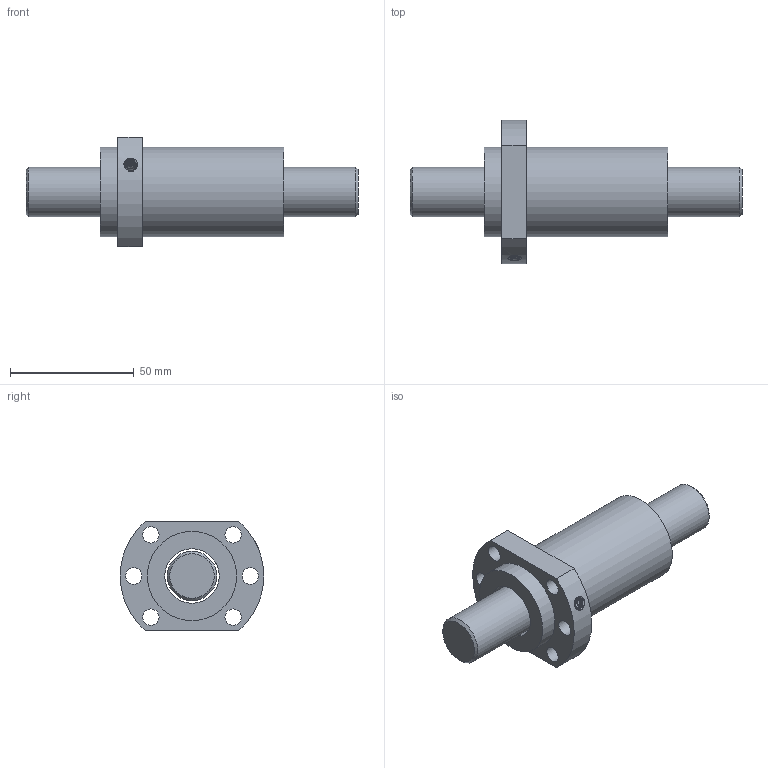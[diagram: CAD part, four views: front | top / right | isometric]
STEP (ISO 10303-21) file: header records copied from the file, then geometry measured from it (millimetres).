
FILE_DESCRIPTION (( 'STEP AP203' ), '1' );
FILE_NAME ('SFH2020-2.8.STEP', '2023-08-16T05:07:51', ( '' ), ( '' ), 'SwSTEP 2.0', 'SolidWorks 2022', '' );
FILE_SCHEMA (( 'CONFIG_CONTROL_DESIGN' ));
Length unit declared in the file: millimetre
Products named in the file (1): SFH2020-2.8
Bounding box: 134 x 58 x 44 mm (x, y, z)
Volume: 99491 mm3; surface area: 28015.3 mm2
Topology: 2 solids, 2 shells, 30 faces, 69 edges, 45 vertices
Faces by surface type: cylinder 16, plane 9, cone 3, bspline 2
Full cylindrical faces by diameter (mm): 4 x1, 4.917 x1, 6.6 x6, 20 x1, 22 x1, 36 x2
Entity records: 2601 total; most frequent: CARTESIAN_POINT 1901, DIRECTION 128, ORIENTED_EDGE 100, EDGE_LOOP 63, AXIS2_PLACEMENT_3D 60, EDGE_CURVE 50, FACE_OUTER_BOUND 42, VERTEX_POINT 41
